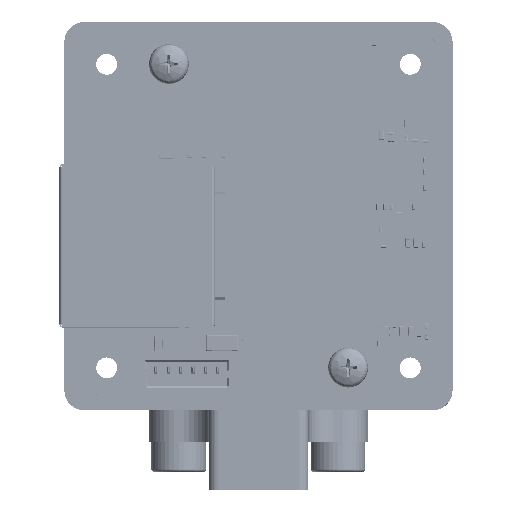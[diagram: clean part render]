
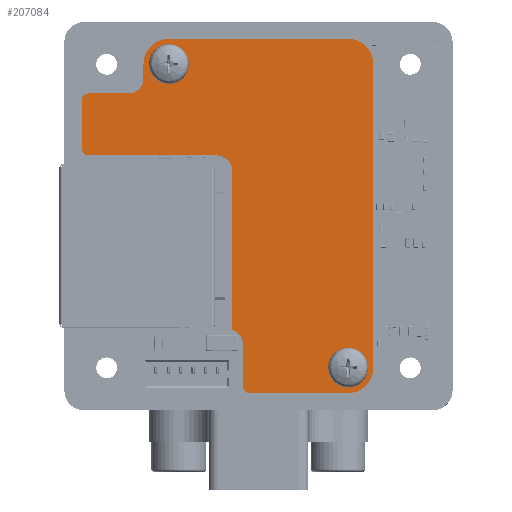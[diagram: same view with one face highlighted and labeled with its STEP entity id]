
A CAD part, top view. The second image highlights one B-rep face of the part: STEP entity #207084.
In plain terms, the highlighted planar face has unit normal (0, 0, 1).
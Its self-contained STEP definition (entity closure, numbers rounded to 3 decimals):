
#267=FACE_BOUND('',#34419,.T.);
#268=FACE_BOUND('',#34420,.T.);
#3532=CIRCLE('',#218318,2.);
#5706=CIRCLE('',#222583,0.7);
#5707=CIRCLE('',#222586,0.7);
#5708=CIRCLE('',#222589,1.499);
#5709=CIRCLE('',#222592,2.55);
#5710=CIRCLE('',#222595,2.55);
#5711=CIRCLE('',#222598,2.55);
#5712=CIRCLE('',#222601,0.7);
#5713=CIRCLE('',#222604,1.501);
#5714=CIRCLE('',#222607,1.499);
#5715=CIRCLE('',#222610,2.);
#21397=FACE_OUTER_BOUND('',#34418,.T.);
#34418=EDGE_LOOP('',(#137562,#137563,#137564,#137565,#137566,#137567,#137568,
#137569,#137570,#137571,#137572,#137573,#137574,#137575,#137576,#137577,
#137578,#137579));
#34419=EDGE_LOOP('',(#137580));
#34420=EDGE_LOOP('',(#137581));
#48411=LINE('',#317232,#66920);
#48414=LINE('',#317240,#66923);
#48417=LINE('',#317248,#66926);
#48420=LINE('',#317256,#66929);
#48423=LINE('',#317264,#66932);
#48426=LINE('',#317272,#66935);
#48429=LINE('',#317280,#66938);
#48432=LINE('',#317288,#66941);
#48435=LINE('',#317295,#66944);
#66920=VECTOR('',#253177,1.);
#66923=VECTOR('',#253186,1.);
#66926=VECTOR('',#253195,1.);
#66929=VECTOR('',#253204,1.);
#66932=VECTOR('',#253213,1.);
#66935=VECTOR('',#253222,1.);
#66938=VECTOR('',#253231,1.);
#66941=VECTOR('',#253240,1.);
#66944=VECTOR('',#253249,1.);
#82818=VERTEX_POINT('',#307529);
#85546=VERTEX_POINT('',#317225);
#85547=VERTEX_POINT('',#317227);
#85548=VERTEX_POINT('',#317231);
#85549=VERTEX_POINT('',#317235);
#85550=VERTEX_POINT('',#317239);
#85551=VERTEX_POINT('',#317243);
#85552=VERTEX_POINT('',#317247);
#85553=VERTEX_POINT('',#317251);
#85554=VERTEX_POINT('',#317255);
#85555=VERTEX_POINT('',#317259);
#85556=VERTEX_POINT('',#317263);
#85557=VERTEX_POINT('',#317267);
#85558=VERTEX_POINT('',#317271);
#85559=VERTEX_POINT('',#317275);
#85560=VERTEX_POINT('',#317279);
#85561=VERTEX_POINT('',#317283);
#85562=VERTEX_POINT('',#317287);
#85563=VERTEX_POINT('',#317291);
#85564=VERTEX_POINT('',#317297);
#99317=EDGE_CURVE('',#82818,#82818,#3532,.T.);
#104127=EDGE_CURVE('',#85546,#85547,#5706,.T.);
#104129=EDGE_CURVE('',#85547,#85548,#48411,.T.);
#104131=EDGE_CURVE('',#85548,#85549,#5707,.T.);
#104133=EDGE_CURVE('',#85549,#85550,#48414,.T.);
#104135=EDGE_CURVE('',#85550,#85551,#5708,.T.);
#104137=EDGE_CURVE('',#85551,#85552,#48417,.T.);
#104139=EDGE_CURVE('',#85552,#85553,#5709,.T.);
#104141=EDGE_CURVE('',#85553,#85554,#48420,.T.);
#104143=EDGE_CURVE('',#85554,#85555,#5710,.T.);
#104145=EDGE_CURVE('',#85555,#85556,#48423,.T.);
#104147=EDGE_CURVE('',#85556,#85557,#5711,.T.);
#104149=EDGE_CURVE('',#85557,#85558,#48426,.T.);
#104151=EDGE_CURVE('',#85558,#85559,#5712,.T.);
#104153=EDGE_CURVE('',#85559,#85560,#48429,.T.);
#104155=EDGE_CURVE('',#85560,#85561,#5713,.T.);
#104157=EDGE_CURVE('',#85561,#85562,#48432,.T.);
#104159=EDGE_CURVE('',#85562,#85563,#5714,.T.);
#104161=EDGE_CURVE('',#85563,#85546,#48435,.T.);
#104162=EDGE_CURVE('',#85564,#85564,#5715,.T.);
#137562=ORIENTED_EDGE('',*,*,#104127,.F.);
#137563=ORIENTED_EDGE('',*,*,#104161,.F.);
#137564=ORIENTED_EDGE('',*,*,#104159,.F.);
#137565=ORIENTED_EDGE('',*,*,#104157,.F.);
#137566=ORIENTED_EDGE('',*,*,#104155,.F.);
#137567=ORIENTED_EDGE('',*,*,#104153,.F.);
#137568=ORIENTED_EDGE('',*,*,#104151,.F.);
#137569=ORIENTED_EDGE('',*,*,#104149,.F.);
#137570=ORIENTED_EDGE('',*,*,#104147,.F.);
#137571=ORIENTED_EDGE('',*,*,#104145,.F.);
#137572=ORIENTED_EDGE('',*,*,#104143,.F.);
#137573=ORIENTED_EDGE('',*,*,#104141,.F.);
#137574=ORIENTED_EDGE('',*,*,#104139,.F.);
#137575=ORIENTED_EDGE('',*,*,#104137,.F.);
#137576=ORIENTED_EDGE('',*,*,#104135,.F.);
#137577=ORIENTED_EDGE('',*,*,#104133,.F.);
#137578=ORIENTED_EDGE('',*,*,#104131,.F.);
#137579=ORIENTED_EDGE('',*,*,#104129,.F.);
#137580=ORIENTED_EDGE('',*,*,#104162,.T.);
#137581=ORIENTED_EDGE('',*,*,#99317,.T.);
#187489=PLANE('',#222609);
#207084=ADVANCED_FACE('',(#21397,#267,#268),#187489,.F.);
#218318=AXIS2_PLACEMENT_3D('',#307530,#242018,#242019);
#222583=AXIS2_PLACEMENT_3D('',#317228,#253172,#253173);
#222586=AXIS2_PLACEMENT_3D('',#317236,#253181,#253182);
#222589=AXIS2_PLACEMENT_3D('',#317244,#253190,#253191);
#222592=AXIS2_PLACEMENT_3D('',#317252,#253199,#253200);
#222595=AXIS2_PLACEMENT_3D('',#317260,#253208,#253209);
#222598=AXIS2_PLACEMENT_3D('',#317268,#253217,#253218);
#222601=AXIS2_PLACEMENT_3D('',#317276,#253226,#253227);
#222604=AXIS2_PLACEMENT_3D('',#317284,#253235,#253236);
#222607=AXIS2_PLACEMENT_3D('',#317292,#253244,#253245);
#222609=AXIS2_PLACEMENT_3D('',#317296,#253250,#253251);
#222610=AXIS2_PLACEMENT_3D('',#317298,#253252,#253253);
#242018=DIRECTION('center_axis',(0.,0.,
-1.));
#242019=DIRECTION('ref_axis',(0.,1.,0.));
#253172=DIRECTION('center_axis',(0.,0.,
-1.));
#253173=DIRECTION('ref_axis',(0.,-1.,0.));
#253177=DIRECTION('',(0.,1.,0.));
#253181=DIRECTION('center_axis',(0.,0.,
-1.));
#253182=DIRECTION('ref_axis',(-1.,0.,0.));
#253186=DIRECTION('',(1.,0.,0.));
#253190=DIRECTION('center_axis',(0.,0.,
1.));
#253191=DIRECTION('ref_axis',(-0.001,-1.,
0.));
#253195=DIRECTION('',(0.,1.,0.));
#253199=DIRECTION('center_axis',(0.,0.,
-1.));
#253200=DIRECTION('ref_axis',(-1.,0.,0.));
#253204=DIRECTION('',(1.,0.,0.));
#253208=DIRECTION('center_axis',(0.,0.,
-1.));
#253209=DIRECTION('ref_axis',(0.,1.,0.));
#253213=DIRECTION('',(0.,-1.,0.));
#253217=DIRECTION('center_axis',(0.,0.,
-1.));
#253218=DIRECTION('ref_axis',(1.,0.,0.));
#253222=DIRECTION('',(-1.,0.,0.));
#253226=DIRECTION('center_axis',(0.,0.,
-1.));
#253227=DIRECTION('ref_axis',(0.,-1.,0.));
#253231=DIRECTION('',(0.,1.,0.));
#253235=DIRECTION('center_axis',(0.,0.,
1.));
#253236=DIRECTION('ref_axis',(1.,0.,0.));
#253240=DIRECTION('',(0.,1.,0.));
#253244=DIRECTION('center_axis',(0.,0.,
1.));
#253245=DIRECTION('ref_axis',(1.,-0.001,0.));
#253249=DIRECTION('',(-1.,0.,0.));
#253250=DIRECTION('center_axis',(0.,0.,
-1.));
#253251=DIRECTION('ref_axis',(-1.,0.,0.));
#253252=DIRECTION('center_axis',(0.,0.,
-1.));
#253253=DIRECTION('ref_axis',(0.,1.,0.));
#307529=CARTESIAN_POINT('',(9.,-17.25,22.999));
#307530=CARTESIAN_POINT('Origin',(9.,-15.25,22.999));
#317225=CARTESIAN_POINT('',(-17.05,6.075,22.999));
#317227=CARTESIAN_POINT('',(-17.75,6.775,22.999));
#317228=CARTESIAN_POINT('Origin',(-17.05,6.775,22.999));
#317231=CARTESIAN_POINT('',(-17.75,11.6,22.999));
#317232=CARTESIAN_POINT('',(-17.75,6.775,22.999));
#317235=CARTESIAN_POINT('',(-17.05,12.3,22.999));
#317236=CARTESIAN_POINT('Origin',(-17.05,11.6,22.999));
#317239=CARTESIAN_POINT('',(-13.05,12.3,22.999));
#317240=CARTESIAN_POINT('',(-17.05,12.3,22.999));
#317243=CARTESIAN_POINT('',(-11.55,13.8,22.999));
#317244=CARTESIAN_POINT('Origin',(-13.049,13.799,22.999));
#317247=CARTESIAN_POINT('',(-11.55,15.25,22.999));
#317248=CARTESIAN_POINT('',(-11.55,13.8,22.999));
#317251=CARTESIAN_POINT('',(-9.,17.8,22.999));
#317252=CARTESIAN_POINT('Origin',(-9.,15.25,22.999));
#317255=CARTESIAN_POINT('',(9.,17.8,22.999));
#317256=CARTESIAN_POINT('',(-9.,17.8,22.999));
#317259=CARTESIAN_POINT('',(11.55,15.25,22.999));
#317260=CARTESIAN_POINT('Origin',(9.,15.25,22.999));
#317263=CARTESIAN_POINT('',(11.55,-15.25,22.999));
#317264=CARTESIAN_POINT('',(11.55,15.25,22.999));
#317267=CARTESIAN_POINT('',(9.,-17.8,22.999));
#317268=CARTESIAN_POINT('Origin',(9.,-15.25,22.999));
#317271=CARTESIAN_POINT('',(-0.85,-17.8,22.999));
#317272=CARTESIAN_POINT('',(9.,-17.8,22.999));
#317275=CARTESIAN_POINT('',(-1.55,-17.1,22.999));
#317276=CARTESIAN_POINT('Origin',(-0.85,-17.1,22.999));
#317279=CARTESIAN_POINT('',(-1.55,-12.9,22.999));
#317280=CARTESIAN_POINT('',(-1.55,-17.1,22.999));
#317283=CARTESIAN_POINT('',(-2.65,-11.454,22.999));
#317284=CARTESIAN_POINT('Origin',(-3.051,-12.9,22.999));
#317287=CARTESIAN_POINT('',(-2.65,4.575,22.999));
#317288=CARTESIAN_POINT('',(-2.65,-11.454,22.999));
#317291=CARTESIAN_POINT('',(-4.15,6.075,22.999));
#317292=CARTESIAN_POINT('Origin',(-4.149,4.576,22.999));
#317295=CARTESIAN_POINT('',(-4.15,6.075,22.999));
#317296=CARTESIAN_POINT('Origin',(0.057,2.485,22.999));
#317297=CARTESIAN_POINT('',(-9.,13.25,22.999));
#317298=CARTESIAN_POINT('Origin',(-9.,15.25,22.999));
